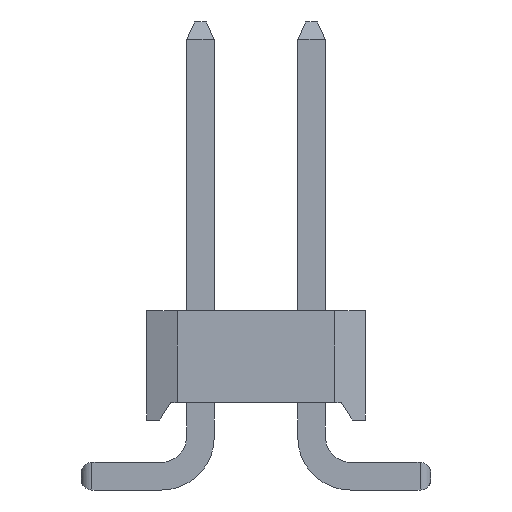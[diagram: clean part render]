
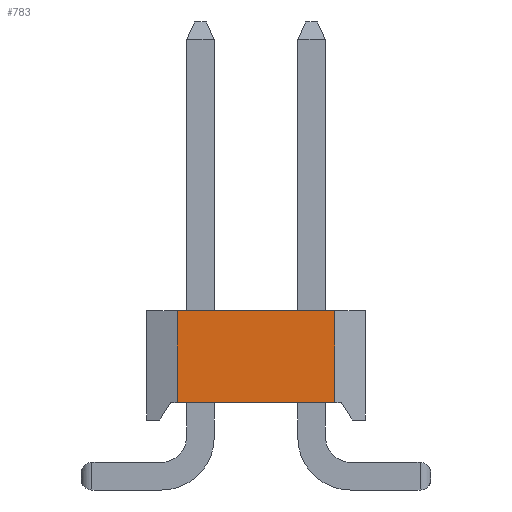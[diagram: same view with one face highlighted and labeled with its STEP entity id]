
A CAD part, left-side view. The second image highlights one B-rep face of the part: STEP entity #783.
In plain terms, the highlighted planar face has unit normal (-1, 0, 0).
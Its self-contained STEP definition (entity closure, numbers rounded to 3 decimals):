
#783=ADVANCED_FACE('',(#2903),#1975,.T.);
#1975=PLANE('',#21294);
#2903=FACE_OUTER_BOUND('',#4183,.T.);
#4183=EDGE_LOOP('',(#6122,#6123,#6124,#6125));
#6122=ORIENTED_EDGE('',*,*,#13839,.F.);
#6123=ORIENTED_EDGE('',*,*,#13656,.T.);
#6124=ORIENTED_EDGE('',*,*,#13840,.T.);
#6125=ORIENTED_EDGE('',*,*,#13428,.T.);
#11576=VERTEX_POINT('',#29202);
#11577=VERTEX_POINT('',#29204);
#11804=VERTEX_POINT('',#29662);
#11805=VERTEX_POINT('',#29663);
#13428=EDGE_CURVE('',#11577,#11576,#16382,.T.);
#13656=EDGE_CURVE('',#11804,#11805,#16610,.T.);
#13839=EDGE_CURVE('',#11804,#11576,#16793,.T.);
#13840=EDGE_CURVE('',#11805,#11577,#16794,.T.);
#16382=LINE('',#29203,#18984);
#16610=LINE('',#29661,#19212);
#16793=LINE('',#29986,#19395);
#16794=LINE('',#29987,#19396);
#18984=VECTOR('',#23213,1.);
#19212=VECTOR('',#23447,1.);
#19395=VECTOR('',#23634,1.);
#19396=VECTOR('',#23635,1.);
#21294=AXIS2_PLACEMENT_3D('',#29988,#23636,#23637);
#23213=DIRECTION('',(0.,-1.,0.));
#23447=DIRECTION('',(0.,1.,0.));
#23634=DIRECTION('',(0.,0.,-1.));
#23635=DIRECTION('',(0.,0.,-1.));
#23636=DIRECTION('',(-1.,0.,0.));
#23637=DIRECTION('',(0.,0.,1.));
#29202=CARTESIAN_POINT('',(0.,0.7,0.));
#29203=CARTESIAN_POINT('',(0.,2.5,0.));
#29204=CARTESIAN_POINT('',(0.,4.3,0.));
#29661=CARTESIAN_POINT('',(0.,2.5,2.1));
#29662=CARTESIAN_POINT('',(0.,0.7,2.1));
#29663=CARTESIAN_POINT('',(0.,4.3,2.1));
#29986=CARTESIAN_POINT('',(0.,0.7,0.));
#29987=CARTESIAN_POINT('',(0.,4.3,0.));
#29988=CARTESIAN_POINT('',(0.,2.5,0.));
